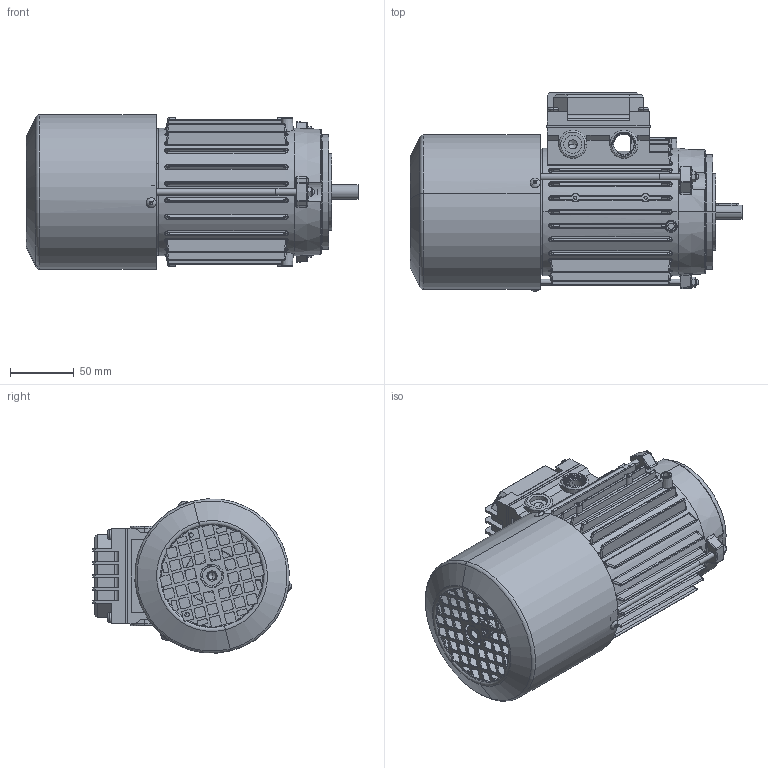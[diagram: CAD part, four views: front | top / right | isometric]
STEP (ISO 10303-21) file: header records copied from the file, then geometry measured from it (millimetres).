
FILE_DESCRIPTION (( 'STEP AP214' ), '1' );
FILE_NAME ('M14BC0011.STEP', '2018-10-24T15:29:37', ( '' ), ( '' ), 'SwSTEP 2.0', 'SolidWorks 2018', '' );
FILE_SCHEMA (( 'AUTOMOTIVE_DESIGN' ));
Length unit declared in the file: millimetre
Products named in the file (14): Coperchio per Scatola Singola 63-71-80 con viti; Guarnizione Scatola Singola 63-71-80; Vite per coperchio morsettiera; Coperchio per Scatola Singola 63-71-80 - DBAN0095; Vite testa rotonda M3; Dado M4; Tirante BM 63; Chiavetta 63; Cuffia BM 63 - DAA20098; Scudo Lato Freno BM 63 - DAAE0094; Scudo a flangia B14 BM 63 - DAAC0194; Albero BM 63; Carcassa 63 B5; M14BC0011
Assembly tree (22 placements, depth 3):
  M14BC0011
    Carcassa 63 B5
    Albero BM 63
    Scudo a flangia B14 BM 63 - DAAC0194
    Scudo Lato Freno BM 63 - DAAE0094
    Cuffia BM 63 - DAA20098
    Chiavetta 63
    Tirante BM 63  x3
    Dado M4  x3
    Vite testa rotonda M3  x3
    Coperchio per Scatola Singola 63-71-80 con viti
      Coperchio per Scatola Singola 63-71-80 - DBAN0095
      Vite per coperchio morsettiera  x4
      Guarnizione Scatola Singola 63-71-80
Bounding box: 259.99 x 155.64 x 120.71 mm (x, y, z)
Volume: 501194.3 mm3; surface area: 341445.9 mm2
Topology: 24 solids, 24 shells, 2913 faces, 7701 edges, 4782 vertices
Faces by surface type: plane 947, cylinder 942, bspline 379, torus 344, cone 197, sphere 104
Entity records: 97532 total; most frequent: CARTESIAN_POINT 36486, ORIENTED_EDGE 13292, DIRECTION 11705, EDGE_CURVE 6646, AXIS2_PLACEMENT_3D 4447, VERTEX_POINT 4194, VECTOR 2811, LINE 2811
